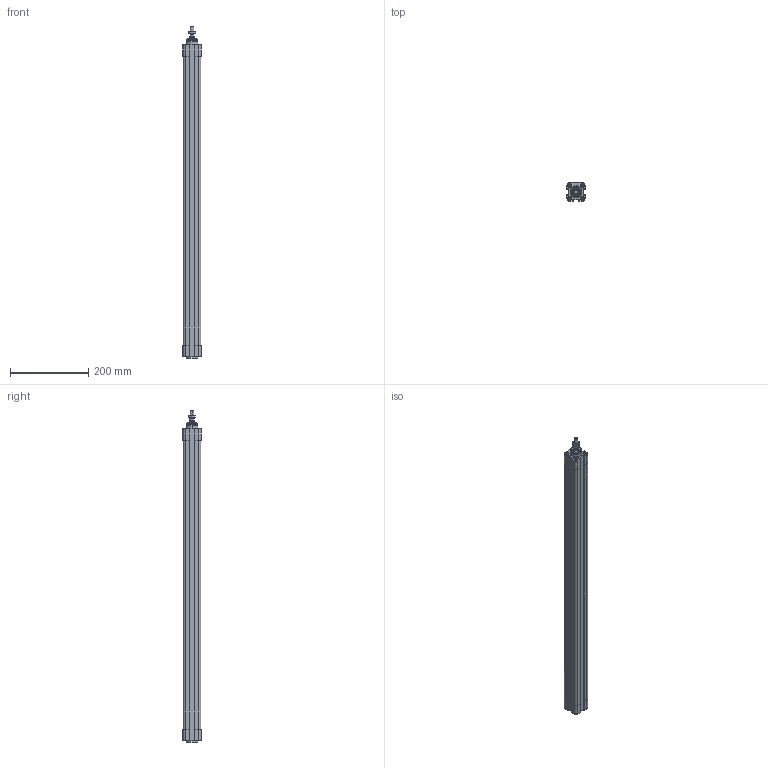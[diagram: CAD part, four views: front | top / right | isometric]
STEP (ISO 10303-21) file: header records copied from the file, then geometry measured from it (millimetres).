
FILE_DESCRIPTION((''),'2;1');
FILE_NAME('F:\Lib-3d\1380\CIL\1380_32_0700_01.stp','2004-01-07T16:01:39',('maffial1'),(''),'Autodesk Inventor 8','Autodesk Inventor 8','');
FILE_SCHEMA(('AUTOMOTIVE_DESIGN { 1 0 10303 214 1 1 1 1 }'));
Length unit declared in the file: millimetre
Products named in the file (4): 1380_32_0700_01; CPP01_32_700; CPP02_32_700; 1320_32_18F
Assembly tree (3 placements, depth 2):
  1380_32_0700_01
    CPP01_32_700
    CPP02_32_700
    1320_32_18F
Bounding box: 46 x 46 x 846 mm (x, y, z)
Volume: 1490346.3 mm3; surface area: 243617.5 mm2
Topology: 3 solids, 3 shells, 244 faces, 570 edges, 356 vertices
Faces by surface type: plane 83, bspline 67, cylinder 58, cone 34, torus 2
Entity records: 7668 total; most frequent: CARTESIAN_POINT 2166, DIRECTION 1136, ORIENTED_EDGE 1108, EDGE_CURVE 554, AXIS2_PLACEMENT_3D 422, VERTEX_POINT 356, VECTOR 292, LINE 292
